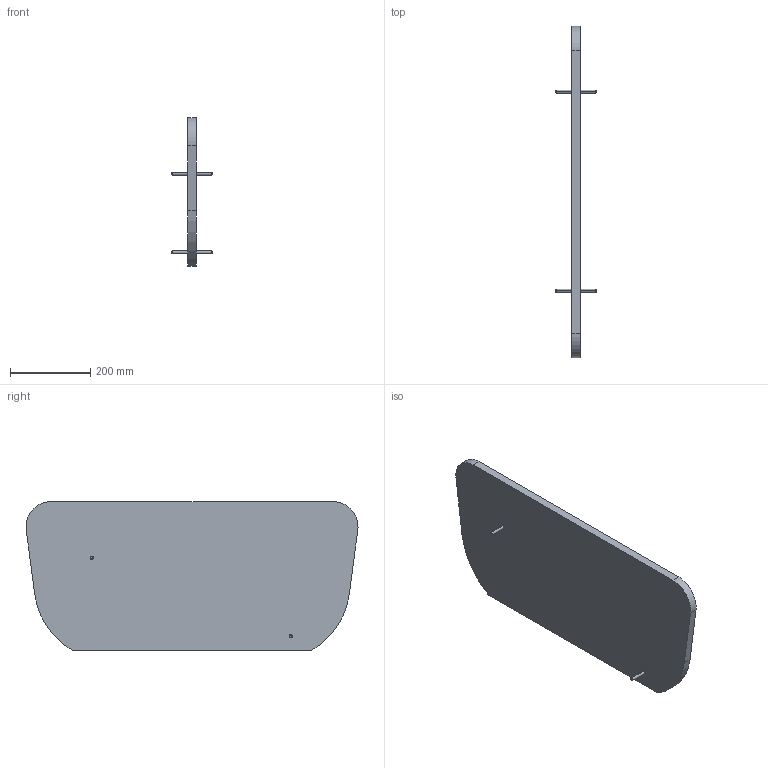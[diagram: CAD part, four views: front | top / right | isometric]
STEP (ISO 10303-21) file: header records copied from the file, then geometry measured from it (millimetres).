
FILE_DESCRIPTION(/* description */ (''),/* implementation_level */ '2;1');
FILE_NAME(/* name */ 'OpenPort spoj',/* time_stamp */ '2021-01-18T13:35:54+01:00',/* author */ (''),/* organization */ (''),/* preprocessor_version */ 'ST-DEVELOPER v16.5',/* originating_system */ '',/* authorisation */ '');
FILE_SCHEMA (('CONFIG_CONTROL_DESIGN'));
Length unit declared in the file: millimetre
Products named in the file (1): Document
Bounding box: 100 x 827.47 x 370.5 mm (x, y, z)
Volume: 5743430.3 mm3; surface area: 622199.5 mm2
Topology: 3 solids, 3 shells, 26 faces, 53 edges, 33 vertices
Faces by surface type: plane 10, cylinder 8, bspline 8
Entity records: 819 total; most frequent: CARTESIAN_POINT 358, ORIENTED_EDGE 104, EDGE_CURVE 52, VERTEX_POINT 32, B_SPLINE_CURVE_WITH_KNOTS 31, ADVANCED_FACE 26, FACE_OUTER_BOUND 26, EDGE_LOOP 26
